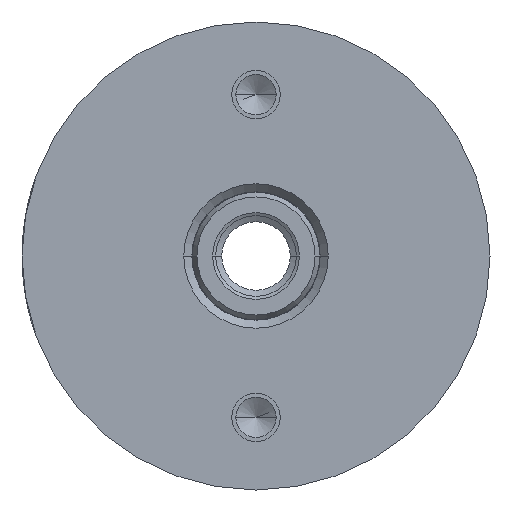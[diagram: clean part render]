
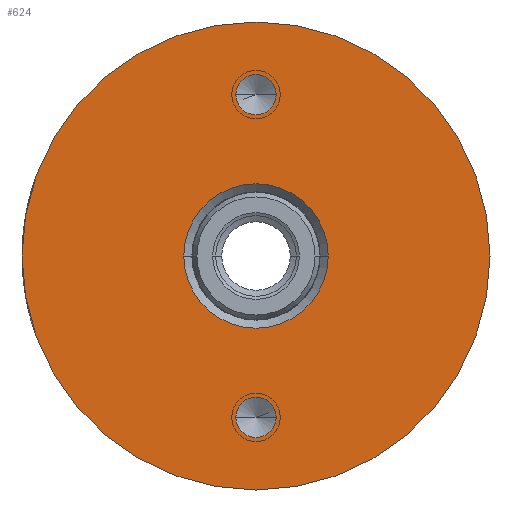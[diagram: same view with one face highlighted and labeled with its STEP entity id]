
A CAD part, front view. The second image highlights one B-rep face of the part: STEP entity #624.
In plain terms, the highlighted planar face has unit normal (0, -1, 0).
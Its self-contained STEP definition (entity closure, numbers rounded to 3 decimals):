
#1=CARTESIAN_POINT('',(0.,0.,0.));
#2=DIRECTION('',(0.,1.,0.));
#3=DIRECTION('',(1.,0.,0.));
#4=AXIS2_PLACEMENT_3D('',#1,#2,#3);
#6=CARTESIAN_POINT('',(0.,0.,0.));
#7=DIRECTION('',(0.,1.,0.));
#8=DIRECTION('',(-1.,0.,0.));
#9=AXIS2_PLACEMENT_3D('',#6,#7,#8);
#11=CARTESIAN_POINT('',(0.,0.,0.));
#12=DIRECTION('',(0.,1.,0.));
#13=DIRECTION('',(1.,0.,0.));
#14=AXIS2_PLACEMENT_3D('',#11,#12,#13);
#16=CARTESIAN_POINT('',(0.,0.,0.));
#17=DIRECTION('',(0.,1.,0.));
#18=DIRECTION('',(-1.,0.,0.));
#19=AXIS2_PLACEMENT_3D('',#16,#17,#18);
#21=CARTESIAN_POINT('',(0.,0.,-20.));
#22=DIRECTION('',(0.,-1.,0.));
#23=DIRECTION('',(-1.,0.,0.));
#24=AXIS2_PLACEMENT_3D('',#21,#22,#23);
#26=CARTESIAN_POINT('',(0.,0.,-20.));
#27=DIRECTION('',(0.,-1.,0.));
#28=DIRECTION('',(1.,0.,0.));
#29=AXIS2_PLACEMENT_3D('',#26,#27,#28);
#31=CARTESIAN_POINT('',(0.,0.,20.));
#32=DIRECTION('',(0.,1.,0.));
#33=DIRECTION('',(-1.,0.,0.));
#34=AXIS2_PLACEMENT_3D('',#31,#32,#33);
#36=CARTESIAN_POINT('',(0.,0.,20.));
#37=DIRECTION('',(0.,1.,0.));
#38=DIRECTION('',(1.,0.,0.));
#39=AXIS2_PLACEMENT_3D('',#36,#37,#38);
#483=CARTESIAN_POINT('',(29.,0.,0.));
#484=CARTESIAN_POINT('',(-29.,0.,0.));
#485=VERTEX_POINT('',#483);
#486=VERTEX_POINT('',#484);
#543=CARTESIAN_POINT('',(8.948,0.,0.));
#544=CARTESIAN_POINT('',(-8.948,0.,0.));
#545=VERTEX_POINT('',#543);
#546=VERTEX_POINT('',#544);
#557=CARTESIAN_POINT('',(-2.5,0.,-20.));
#558=CARTESIAN_POINT('',(2.5,0.,-20.));
#559=VERTEX_POINT('',#557);
#560=VERTEX_POINT('',#558);
#567=CARTESIAN_POINT('',(-2.5,0.,20.));
#568=VERTEX_POINT('',#567);
#569=CARTESIAN_POINT('',(2.5,0.,20.));
#570=VERTEX_POINT('',#569);
#595=CARTESIAN_POINT('',(0.,0.,0.));
#596=DIRECTION('',(0.,1.,0.));
#597=DIRECTION('',(1.,0.,0.));
#598=AXIS2_PLACEMENT_3D('',#595,#596,#597);
#599=PLANE('',#598);
#601=ORIENTED_EDGE('',*,*,#600,.T.);
#603=ORIENTED_EDGE('',*,*,#602,.T.);
#604=EDGE_LOOP('',(#601,#603));
#605=FACE_OUTER_BOUND('',#604,.F.);
#607=ORIENTED_EDGE('',*,*,#606,.F.);
#609=ORIENTED_EDGE('',*,*,#608,.F.);
#610=EDGE_LOOP('',(#607,#609));
#611=FACE_BOUND('',#610,.F.);
#613=ORIENTED_EDGE('',*,*,#612,.T.);
#615=ORIENTED_EDGE('',*,*,#614,.T.);
#616=EDGE_LOOP('',(#613,#615));
#617=FACE_BOUND('',#616,.F.);
#619=ORIENTED_EDGE('',*,*,#618,.F.);
#621=ORIENTED_EDGE('',*,*,#620,.F.);
#622=EDGE_LOOP('',(#619,#621));
#623=FACE_BOUND('',#622,.F.);
#624=ADVANCED_FACE('',(#605,#611,#617,#623),#599,.F.);
#5=CIRCLE('',#4,29.);
#10=CIRCLE('',#9,29.);
#15=CIRCLE('',#14,8.948);
#20=CIRCLE('',#19,8.948);
#25=CIRCLE('',#24,2.5);
#30=CIRCLE('',#29,2.5);
#35=CIRCLE('',#34,2.5);
#40=CIRCLE('',#39,2.5);
#600=EDGE_CURVE('',#485,#486,#5,.T.);
#602=EDGE_CURVE('',#486,#485,#10,.T.);
#606=EDGE_CURVE('',#545,#546,#15,.T.);
#608=EDGE_CURVE('',#546,#545,#20,.T.);
#612=EDGE_CURVE('',#559,#560,#25,.T.);
#614=EDGE_CURVE('',#560,#559,#30,.T.);
#618=EDGE_CURVE('',#568,#570,#35,.T.);
#620=EDGE_CURVE('',#570,#568,#40,.T.);
